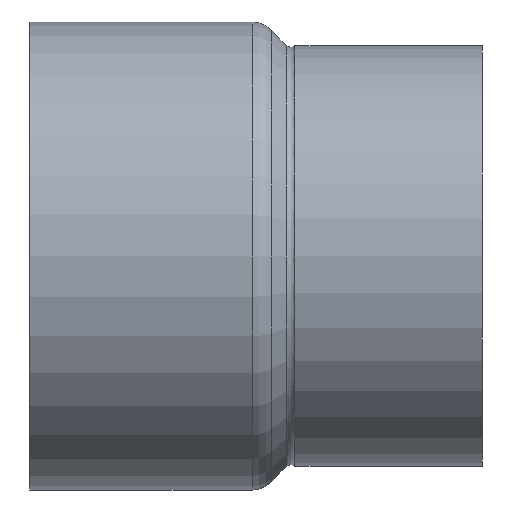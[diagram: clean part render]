
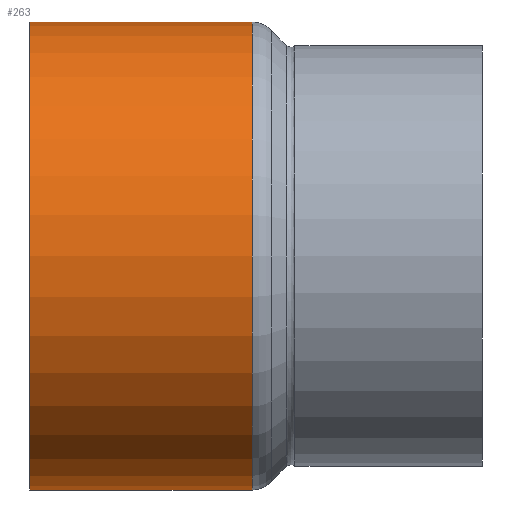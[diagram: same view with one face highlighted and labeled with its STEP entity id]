
A CAD part, front view. The second image highlights one B-rep face of the part: STEP entity #263.
In plain terms, the highlighted cylindrical face has radius 44.45 mm (diameter 88.9 mm), a full revolution.
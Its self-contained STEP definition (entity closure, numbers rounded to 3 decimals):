
#229=CARTESIAN_POINT('',(5.501,44.45,0.0));
#230=VERTEX_POINT('',#229);
#231=CARTESIAN_POINT('',(5.501,0.0,0.0));
#232=DIRECTION('',(1.0,0.0,0.0));
#233=DIRECTION('',(0.0,1.0,0.0));
#234=AXIS2_PLACEMENT_3D('',#231,#232,#233);
#235=CIRCLE('',#234,44.45);
#236=EDGE_CURVE('',#230,#230,#235,.T.);
#244=CARTESIAN_POINT('',(26.641,0.0,0.0));
#245=DIRECTION('',(1.0,0.0,0.0));
#246=DIRECTION('',(0.0,1.0,0.0));
#247=AXIS2_PLACEMENT_3D('',#244,#245,#246);
#248=CYLINDRICAL_SURFACE('',#247,44.45);
#249=CARTESIAN_POINT('',(47.78,44.45,0.0));
#250=VERTEX_POINT('',#249);
#251=CARTESIAN_POINT('',(47.78,0.0,0.0));
#252=DIRECTION('',(1.0,0.0,0.0));
#253=DIRECTION('',(0.0,1.0,0.0));
#254=AXIS2_PLACEMENT_3D('',#251,#252,#253);
#255=CIRCLE('',#254,44.45);
#256=EDGE_CURVE('',#250,#250,#255,.T.);
#257=ORIENTED_EDGE('',*,*,#256,.F.);
#258=EDGE_LOOP('',(#257));
#259=FACE_OUTER_BOUND('',#258,.T.);
#260=ORIENTED_EDGE('',*,*,#236,.T.);
#261=EDGE_LOOP('',(#260));
#262=FACE_BOUND('',#261,.T.);
#263=ADVANCED_FACE('',(#259,#262),#248,.T.);
